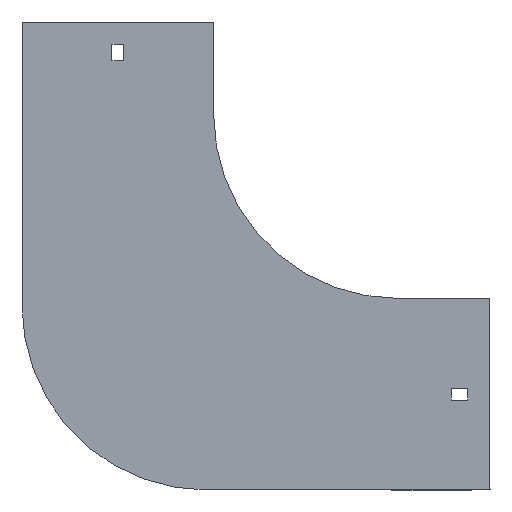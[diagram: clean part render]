
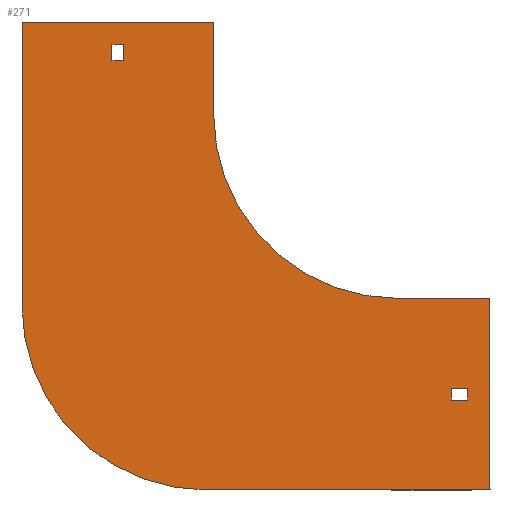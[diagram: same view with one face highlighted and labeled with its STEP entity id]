
A CAD part, front view. The second image highlights one B-rep face of the part: STEP entity #271.
In plain terms, the highlighted planar face has unit normal (0, -1, 0).
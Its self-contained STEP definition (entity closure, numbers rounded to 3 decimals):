
#15 = VERTEX_POINT ( 'NONE', #1704 ) ;
#31 = VECTOR ( 'NONE', #468, 1000. ) ;
#32 = CARTESIAN_POINT ( 'NONE',  ( 0., 0., 0. ) ) ;
#38 = CARTESIAN_POINT ( 'NONE',  ( -100., 0., 0. ) ) ;
#45 = EDGE_LOOP ( 'NONE', ( #142, #1516, #1871, #1019 ) ) ;
#58 = EDGE_CURVE ( 'NONE', #272, #860, #1166, .T. ) ;
#85 = CARTESIAN_POINT ( 'NONE',  ( 38., 0., -148.75 ) ) ;
#92 = VERTEX_POINT ( 'NONE', #1419 ) ;
#123 = ORIENTED_EDGE ( 'NONE', *, *, #1617, .F. ) ;
#142 = ORIENTED_EDGE ( 'NONE', *, *, #701, .T. ) ;
#153 = CARTESIAN_POINT ( 'NONE',  ( 29., 0., -155.25 ) ) ;
#158 = CIRCLE ( 'NONE', #921, 100. ) ;
#196 = LINE ( 'NONE', #1396, #1487 ) ;
#201 = VERTEX_POINT ( 'NONE', #732 ) ;
#206 = DIRECTION ( 'NONE',  ( 1., 0., 0. ) ) ;
#208 = VERTEX_POINT ( 'NONE', #579 ) ;
#217 = VERTEX_POINT ( 'NONE', #741 ) ;
#271 = ADVANCED_FACE ( 'NONE', ( #1185, #1321, #1772 ), #1328, .T. ) ;
#272 = VERTEX_POINT ( 'NONE', #288 ) ;
#277 = VECTOR ( 'NONE', #496, 1000. ) ;
#288 = CARTESIAN_POINT ( 'NONE',  ( 38., 0., -155.25 ) ) ;
#313 = LINE ( 'NONE', #455, #1534 ) ;
#336 = VERTEX_POINT ( 'NONE', #605 ) ;
#346 = LINE ( 'NONE', #941, #277 ) ;
#359 = DIRECTION ( 'NONE',  ( -1., 0., 0. ) ) ;
#370 = EDGE_CURVE ( 'NONE', #819, #1596, #1403, .T. ) ;
#373 = VECTOR ( 'NONE', #919, 1000. ) ;
#420 = VERTEX_POINT ( 'NONE', #1387 ) ;
#424 = VERTEX_POINT ( 'NONE', #38 ) ;
#431 = ORIENTED_EDGE ( 'NONE', *, *, #709, .F. ) ;
#436 = CARTESIAN_POINT ( 'NONE',  ( 0., 0., -100. ) ) ;
#455 = CARTESIAN_POINT ( 'NONE',  ( -204., 0., -104. ) ) ;
#468 = DIRECTION ( 'NONE',  ( 0., 0., 1. ) ) ;
#479 = VECTOR ( 'NONE', #834, 1000. ) ;
#482 = CARTESIAN_POINT ( 'NONE',  ( -155.25, 0., 38. ) ) ;
#496 = DIRECTION ( 'NONE',  ( 0., 0., -1. ) ) ;
#499 = VERTEX_POINT ( 'NONE', #671 ) ;
#502 = EDGE_CURVE ( 'NONE', #1016, #201, #1274, .T. ) ;
#525 = CARTESIAN_POINT ( 'NONE',  ( -204., 0., 50. ) ) ;
#528 = CARTESIAN_POINT ( 'NONE',  ( -155.25, 0., 38. ) ) ;
#530 = CARTESIAN_POINT ( 'NONE',  ( 38., 0., -155.25 ) ) ;
#555 = AXIS2_PLACEMENT_3D ( 'NONE', #1635, #1509, #1483 ) ;
#579 = CARTESIAN_POINT ( 'NONE',  ( -100., 0., 50. ) ) ;
#605 = CARTESIAN_POINT ( 'NONE',  ( -204., 0., -104. ) ) ;
#606 = LINE ( 'NONE', #1082, #31 ) ;
#629 = CARTESIAN_POINT ( 'NONE',  ( -148.75, 0., 38. ) ) ;
#637 = LINE ( 'NONE', #801, #681 ) ;
#642 = VECTOR ( 'NONE', #955, 1000. ) ;
#646 = DIRECTION ( 'NONE',  ( 0., 0., -1. ) ) ;
#671 = CARTESIAN_POINT ( 'NONE',  ( 50., 0., -204. ) ) ;
#681 = VECTOR ( 'NONE', #359, 1000. ) ;
#701 = EDGE_CURVE ( 'NONE', #201, #819, #606, .T. ) ;
#709 = EDGE_CURVE ( 'NONE', #860, #92, #1813, .T. ) ;
#729 = ORIENTED_EDGE ( 'NONE', *, *, #1870, .F. ) ;
#732 = CARTESIAN_POINT ( 'NONE',  ( -155.25, 0., 29. ) ) ;
#736 = DIRECTION ( 'NONE',  ( 0., 0., -1. ) ) ;
#737 = EDGE_CURVE ( 'NONE', #92, #1768, #787, .T. ) ;
#741 = CARTESIAN_POINT ( 'NONE',  ( 0., 0., -100. ) ) ;
#744 = ORIENTED_EDGE ( 'NONE', *, *, #1441, .F. ) ;
#746 = DIRECTION ( 'NONE',  ( 0., 0., -1. ) ) ;
#786 = VECTOR ( 'NONE', #1649, 1000. ) ;
#787 = LINE ( 'NONE', #153, #1367 ) ;
#801 = CARTESIAN_POINT ( 'NONE',  ( 50., 0., -204. ) ) ;
#819 = VERTEX_POINT ( 'NONE', #528 ) ;
#821 = ORIENTED_EDGE ( 'NONE', *, *, #737, .F. ) ;
#834 = DIRECTION ( 'NONE',  ( 0., 0., 1. ) ) ;
#848 = ORIENTED_EDGE ( 'NONE', *, *, #1667, .F. ) ;
#860 = VERTEX_POINT ( 'NONE', #85 ) ;
#862 = CARTESIAN_POINT ( 'NONE',  ( -104., 0., -104. ) ) ;
#867 = CARTESIAN_POINT ( 'NONE',  ( 50., 0., -100. ) ) ;
#892 = EDGE_CURVE ( 'NONE', #208, #424, #346, .T. ) ;
#919 = DIRECTION ( 'NONE',  ( -1., 0., 0. ) ) ;
#921 = AXIS2_PLACEMENT_3D ( 'NONE', #862, #1456, #1298 ) ;
#941 = CARTESIAN_POINT ( 'NONE',  ( -100., 0., 50. ) ) ;
#949 = EDGE_CURVE ( 'NONE', #336, #15, #313, .T. ) ;
#955 = DIRECTION ( 'NONE',  ( 1., 0., 0. ) ) ;
#993 = CARTESIAN_POINT ( 'NONE',  ( -155.25, 0., 29. ) ) ;
#1016 = VERTEX_POINT ( 'NONE', #1314 ) ;
#1019 = ORIENTED_EDGE ( 'NONE', *, *, #502, .T. ) ;
#1032 = ORIENTED_EDGE ( 'NONE', *, *, #58, .F. ) ;
#1065 = CARTESIAN_POINT ( 'NONE',  ( 29., 0., -148.75 ) ) ;
#1070 = DIRECTION ( 'NONE',  ( 0., -1., 0. ) ) ;
#1082 = CARTESIAN_POINT ( 'NONE',  ( -155.25, 0., 29. ) ) ;
#1131 = VERTEX_POINT ( 'NONE', #1597 ) ;
#1134 = DIRECTION ( 'NONE',  ( 1., 0., 0. ) ) ;
#1143 = CARTESIAN_POINT ( 'NONE',  ( 29., 0., -155.25 ) ) ;
#1166 = LINE ( 'NONE', #530, #479 ) ;
#1185 = FACE_BOUND ( 'NONE', #45, .T. ) ;
#1197 = EDGE_CURVE ( 'NONE', #1131, #499, #1605, .T. ) ;
#1274 = LINE ( 'NONE', #993, #1477 ) ;
#1298 = DIRECTION ( 'NONE',  ( 0., 0., 1. ) ) ;
#1303 = DIRECTION ( 'NONE',  ( 0., 0., -1. ) ) ;
#1314 = CARTESIAN_POINT ( 'NONE',  ( -148.75, 0., 29. ) ) ;
#1321 = FACE_OUTER_BOUND ( 'NONE', #1848, .T. ) ;
#1328 = PLANE ( 'NONE',  #555 ) ;
#1331 = ORIENTED_EDGE ( 'NONE', *, *, #1557, .F. ) ;
#1361 = VECTOR ( 'NONE', #1303, 1000. ) ;
#1367 = VECTOR ( 'NONE', #746, 1000. ) ;
#1387 = CARTESIAN_POINT ( 'NONE',  ( -104., 0., -204. ) ) ;
#1396 = CARTESIAN_POINT ( 'NONE',  ( -148.75, 0., 29. ) ) ;
#1403 = LINE ( 'NONE', #482, #1685 ) ;
#1404 = EDGE_LOOP ( 'NONE', ( #1032, #1331, #821, #431 ) ) ;
#1419 = CARTESIAN_POINT ( 'NONE',  ( 29., 0., -148.75 ) ) ;
#1441 = EDGE_CURVE ( 'NONE', #420, #336, #158, .T. ) ;
#1456 = DIRECTION ( 'NONE',  ( 0., 1., 0. ) ) ;
#1477 = VECTOR ( 'NONE', #1586, 1000. ) ;
#1483 = DIRECTION ( 'NONE',  ( 0., 0., -1. ) ) ;
#1487 = VECTOR ( 'NONE', #646, 1000. ) ;
#1501 = EDGE_CURVE ( 'NONE', #1596, #1016, #196, .T. ) ;
#1509 = DIRECTION ( 'NONE',  ( 0., -1., 0. ) ) ;
#1516 = ORIENTED_EDGE ( 'NONE', *, *, #370, .T. ) ;
#1533 = EDGE_CURVE ( 'NONE', #217, #1131, #1795, .T. ) ;
#1534 = VECTOR ( 'NONE', #1672, 1000. ) ;
#1543 = LINE ( 'NONE', #1835, #642 ) ;
#1557 = EDGE_CURVE ( 'NONE', #1768, #272, #1543, .T. ) ;
#1586 = DIRECTION ( 'NONE',  ( -1., 0., 0. ) ) ;
#1596 = VERTEX_POINT ( 'NONE', #629 ) ;
#1597 = CARTESIAN_POINT ( 'NONE',  ( 50., 0., -100. ) ) ;
#1605 = LINE ( 'NONE', #867, #1361 ) ;
#1609 = ORIENTED_EDGE ( 'NONE', *, *, #1197, .F. ) ;
#1617 = EDGE_CURVE ( 'NONE', #499, #420, #637, .T. ) ;
#1632 = AXIS2_PLACEMENT_3D ( 'NONE', #32, #1070, #736 ) ;
#1635 = CARTESIAN_POINT ( 'NONE',  ( 0., 0., 0. ) ) ;
#1649 = DIRECTION ( 'NONE',  ( 1., 0., 0. ) ) ;
#1666 = ORIENTED_EDGE ( 'NONE', *, *, #1533, .F. ) ;
#1667 = EDGE_CURVE ( 'NONE', #15, #208, #1881, .T. ) ;
#1672 = DIRECTION ( 'NONE',  ( 0., 0., 1. ) ) ;
#1685 = VECTOR ( 'NONE', #206, 1000. ) ;
#1704 = CARTESIAN_POINT ( 'NONE',  ( -204., 0., 50. ) ) ;
#1721 = VECTOR ( 'NONE', #1134, 1000. ) ;
#1763 = ORIENTED_EDGE ( 'NONE', *, *, #892, .F. ) ;
#1768 = VERTEX_POINT ( 'NONE', #1143 ) ;
#1772 = FACE_BOUND ( 'NONE', #1404, .T. ) ;
#1795 = LINE ( 'NONE', #436, #786 ) ;
#1802 = ORIENTED_EDGE ( 'NONE', *, *, #949, .F. ) ;
#1813 = LINE ( 'NONE', #1065, #373 ) ;
#1835 = CARTESIAN_POINT ( 'NONE',  ( 29., 0., -155.25 ) ) ;
#1848 = EDGE_LOOP ( 'NONE', ( #848, #1802, #744, #123, #1609, #1666, #729, #1763 ) ) ;
#1870 = EDGE_CURVE ( 'NONE', #424, #217, #1951, .T. ) ;
#1871 = ORIENTED_EDGE ( 'NONE', *, *, #1501, .T. ) ;
#1881 = LINE ( 'NONE', #525, #1721 ) ;
#1951 = CIRCLE ( 'NONE', #1632, 100. ) ;
